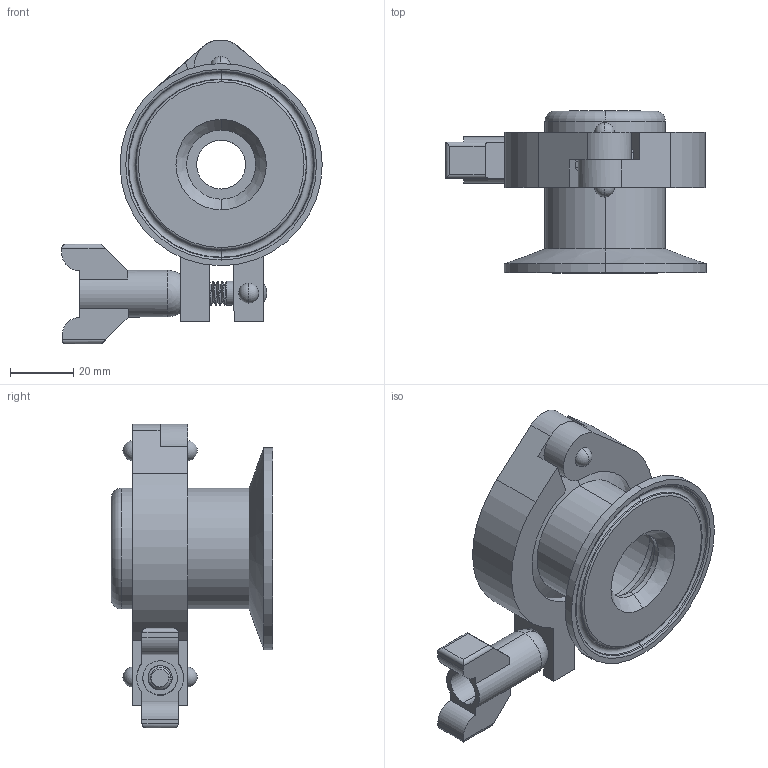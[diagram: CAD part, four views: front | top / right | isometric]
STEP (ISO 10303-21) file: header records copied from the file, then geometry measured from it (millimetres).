
FILE_DESCRIPTION (( 'STEP AP203' ), '1' );
FILE_NAME ('EG62C2.0-.375.STEP', '2019-11-14T20:10:27', ( 'vneprd' ), ( 'Microsoft' ), 'SwSTEP 2.0', 'SolidWorks 2018', '' );
FILE_SCHEMA (( 'CONFIG_CONTROL_DESIGN' ));
Length unit declared in the file: inch
Products named in the file (1): EG62C2.0-.375
Bounding box: 82.32 x 51.13 x 96.03 mm (x, y, z)
Volume: 78269.7 mm3; surface area: 43762.3 mm2
Topology: 9 solids, 9 shells, 264 faces, 641 edges, 405 vertices
Faces by surface type: cylinder 116, plane 60, torus 42, cone 29, sphere 14, bspline 3
Entity records: 12133 total; most frequent: CARTESIAN_POINT 6021, DIRECTION 1299, ORIENTED_EDGE 1274, EDGE_CURVE 637, AXIS2_PLACEMENT_3D 533, VERTEX_POINT 403, EDGE_LOOP 294, CIRCLE 271
